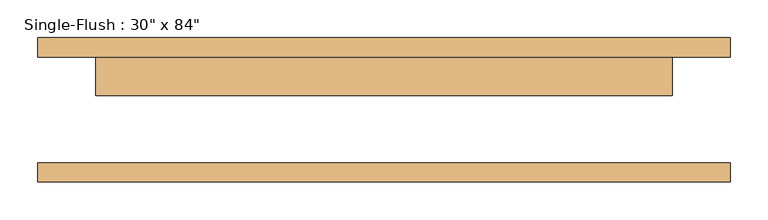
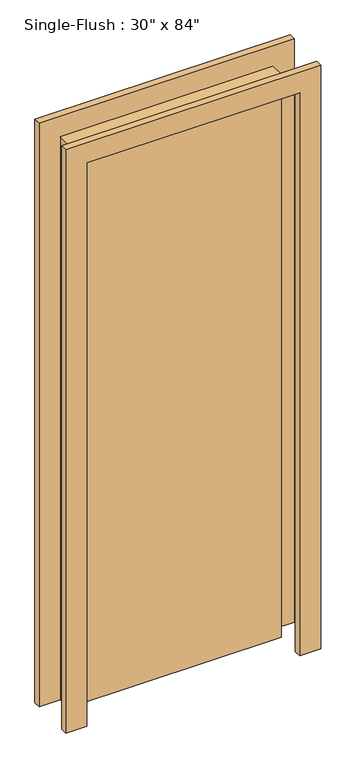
"""IFC4 building model written with IfcOpenShell, lengths in millimetres: door geometry."""

from ifc_helpers import new_model, si_unit, frame, origin, origin_with_axes, place, context, project, spatial, polyline, outline, extrude, source, transform, mapped, element, save


def door_cd3018f3(model_context):
    return source(origin(), model_context, "Body", "SweptSolid", [
        extrude(outline(polyline([(2209.8, -457.2), (0.0, -457.2), (0.0, -381.0), (2133.6, -381.0), (2133.6, 381.0), (0.0, 381.0), (0.0, 457.2), (2209.8, 457.2), (2209.8, -457.2)])), frame((0.0, 70.0, 0.0), z_axis=(0.0, 1.0, 0.0), x_axis=(0.0, 0.0, 1.0)), (0.0, 0.0, 1.0), 25.4),
        extrude(outline(polyline([(2209.8, 457.2), (2209.8, -457.2), (0.0, -457.2), (0.0, -381.0), (2133.6, -381.0), (2133.6, 381.0), (0.0, 381.0), (0.0, 457.2), (2209.8, 457.2)])), frame((0.0, -95.4, 0.0), z_axis=(0.0, 1.0, 0.0), x_axis=(0.0, 0.0, 1.0)), (0.0, 0.0, 1.0), 25.4),
        extrude(outline(polyline([(381.0, 19.2), (-381.0, 19.2), (-381.0, 70.0), (381.0, 70.0), (381.0, 19.2)])), origin_with_axes(), (0.0, 0.0, 1.0), 2133.6),
    ])


if __name__ == "__main__":
    model = new_model("IFC4")
    model_context = context("Model", 3, world=origin())
    ifc_project = project(units=[si_unit("LENGTHUNIT", "METRE", prefix="MILLI")], contexts=[model_context])
    site = spatial("IfcSite", under=ifc_project)
    building = spatial("IfcBuilding", under=site)
    placement = place(None, origin())
    door_shape = door_cd3018f3(model_context)
    element("IfcDoor", 1, ObjectType="Single-Flush : 30\" x 84\"", at=placement, inside=building, context=model_context, shape_type="MappedRepresentation", body=[
        mapped(door_shape, transform((0.0, 0.0, 0.0), x_axis=(1.0, 0.0, 0.0), y_axis=(0.0, 1.0, 0.0), z_axis=(0.0, 0.0, 1.0))),
    ])
    save(model, "model.ifc")
